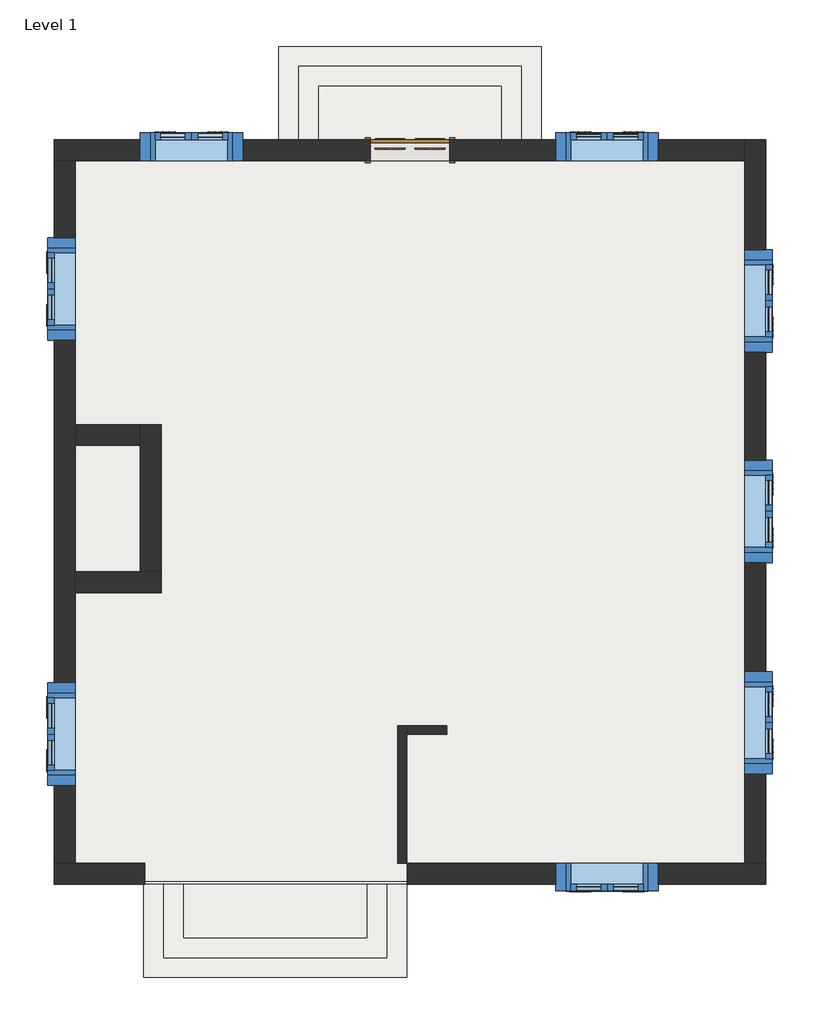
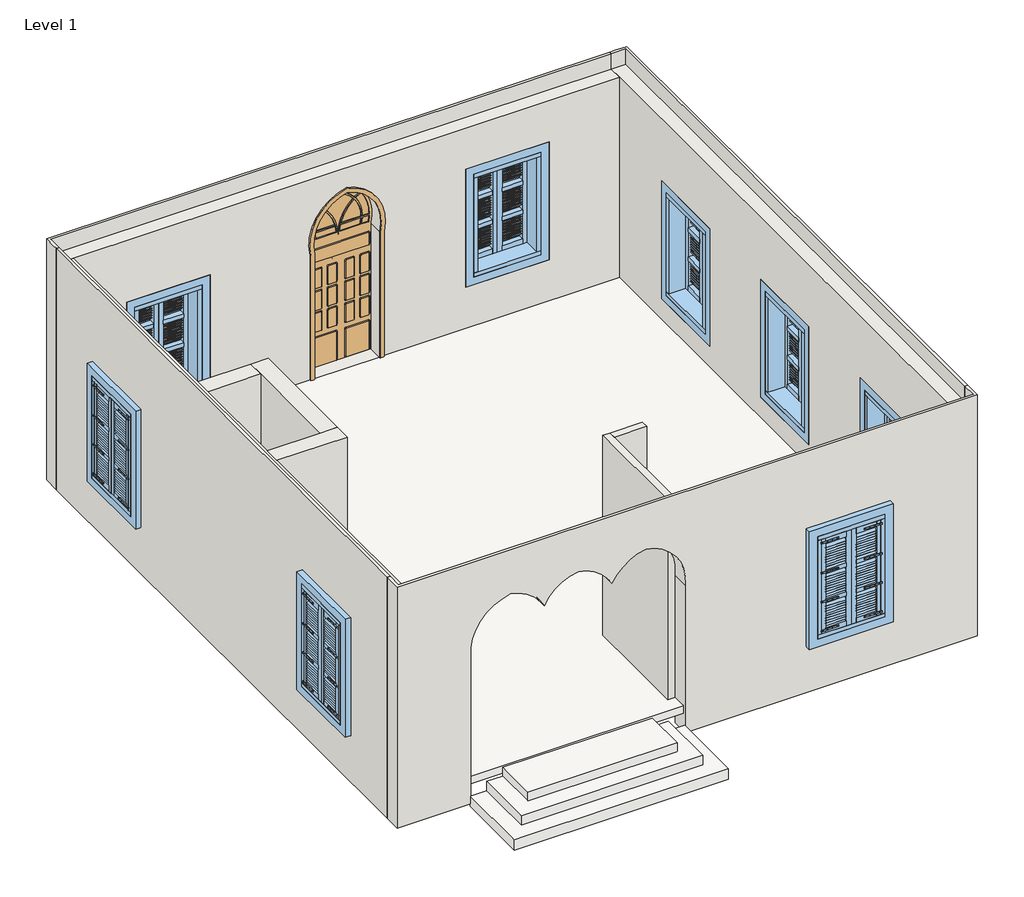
# One storey, incomplete: 9 walls, 8 windows, 7 slabs, 1 door.
"""IFC4 building model written with IfcOpenShell, lengths in millimetres."""

from ifc_helpers import new_model, si_unit, frame, origin, origin_with_axes, place, context, project, spatial, polyline, circle_curve, outline, extrude, faceted_brep, transform, mapped, element, save
from ifc_brep_helpers import plane_surface, revolved_surface, advanced_brep
from components import door_c471d53b, door_a8ad100a, door_55d09108, window_0344a641

model = new_model("IFC4")

# Units and contexts
model_context = context("Model", 3, world=origin())
ifc_project = project(units=[si_unit("LENGTHUNIT", "METRE", prefix="MILLI")], contexts=[model_context])

# Site, building, storey
site = spatial("IfcSite", under=ifc_project)
building = spatial("IfcBuilding", under=site)
storey = spatial("IfcBuildingStorey", under=building, Name="Level 1", Elevation=0.0)

# Door
placement = place(None, origin())
door_shape = door_c471d53b(model_context)
door_2_shape = door_a8ad100a(model_context)
door_3_shape = door_55d09108(model_context)
element("IfcDoor", 1, ObjectType="ETC Arabic Door : ETC Arabic Door", at=placement, inside=storey, context=model_context, shape_type="MappedRepresentation", body=[
    mapped(door_shape, transform((1836.8618283, 5518.1676657, 0.0), x_axis=(1.0, 0.0, 0.0), y_axis=(0.0, 1.0, 0.0), z_axis=(0.0, 0.0, 1.0))),
    mapped(door_2_shape, transform((1836.8618283, 5518.1676657, 0.0), x_axis=(1.0, 0.0, 0.0), y_axis=(0.0, 1.0, 0.0), z_axis=(0.0, 0.0, 1.0))),
    mapped(door_3_shape, transform((1836.8618283, 5518.1676657, 0.0), x_axis=(1.0, 0.0, 0.0), y_axis=(0.0, 1.0, 0.0), z_axis=(0.0, 0.0, 1.0))),
])

# Slabs
element("IfcSlab", 2, ObjectType="Floor stairs entrances", at=placement, inside=storey, context=model_context, shape_type="SweptSolid", body=[
    extrude(outline(polyline([(1186.8619782, -5524.3323343), (1186.8619782, -6324.3323904), (-1563.1375714, -6324.3323904), (-1563.1375714, -5524.3323343), (1186.8619782, -5524.3323343)])), frame((0.0, 0.0, -200.0), z_axis=(0.0, 0.0, 1.0), x_axis=(1.0, 0.0, 0.0)), (0.0, 0.0, 1.0), 200.0),
])
element("IfcSlab", 3, ObjectType="Floor stairs entrances", at=placement, inside=storey, context=model_context, shape_type="SweptSolid", body=[
    extrude(outline(polyline([(-1563.1375714, -6324.3323904), (1186.8619782, -6324.3323904), (1186.8619782, -5524.3323343), (1486.8611762, -5524.3323343), (1486.8613916, -6624.3323896), (-1863.138015, -6624.3323495), (-1863.1382303, -5524.334187), (-1563.1375714, -5524.334187), (-1563.1375714, -6324.3323904)])), frame((0.0, 0.0, -366.7), z_axis=(0.0, 0.0, 1.0), x_axis=(1.0, 0.0, 0.0)), (0.0, 0.0, 1.0), 200.0),
])
element("IfcSlab", 4, ObjectType="Floor stairs entrances", at=placement, inside=storey, context=model_context, shape_type="SweptSolid", body=[
    extrude(outline(polyline([(-1863.1382303, -5524.3323343), (-1863.138015, -6624.3323495), (1486.8613916, -6624.3323896), (1486.8611762, -5524.3323343), (1786.8618038, -5524.3323343), (1786.8618038, -6924.3325537), (-2163.1382449, -6924.3325537), (-2163.1382449, -5524.3323343), (-1863.1382303, -5524.3323343)])), frame((0.0, 0.0, -550.0), z_axis=(0.0, 0.0, 1.0), x_axis=(1.0, 0.0, 0.0)), (0.0, 0.0, 1.0), 200.0),
])
element("IfcSlab", 5, ObjectType="Floor stairs entrances", at=placement, inside=storey, context=model_context, shape_type="SweptSolid", body=[
    extrude(outline(polyline([(461.8616295, 5675.6676657), (461.8616295, 6475.6677217), (3211.8611792, 6475.6677217), (3211.8611792, 5675.6676657), (461.8616295, 5675.6676657)])), frame((0.0, 0.0, -200.0), z_axis=(0.0, 0.0, 1.0), x_axis=(1.0, 0.0, 0.0)), (0.0, 0.0, 1.0), 200.0),
])
element("IfcSlab", 6, ObjectType="Floor stairs entrances", at=placement, inside=storey, context=model_context, shape_type="SweptSolid", body=[
    extrude(outline(polyline([(3211.8611792, 6475.6677217), (461.8616295, 6475.6677217), (461.8616295, 5675.6676657), (161.8624316, 5675.6676657), (161.8622162, 6775.6677209), (3511.8616228, 6775.6676809), (3511.8618381, 5675.6695183), (3211.8611792, 5675.6695183), (3211.8611792, 6475.6677217)])), frame((0.0, 0.0, -366.7), z_axis=(0.0, 0.0, 1.0), x_axis=(1.0, 0.0, 0.0)), (0.0, 0.0, 1.0), 200.0),
])
element("IfcSlab", 7, ObjectType="Floor stairs entrances", at=placement, inside=storey, context=model_context, shape_type="SweptSolid", body=[
    extrude(outline(polyline([(3511.8618381, 5675.6676657), (3511.8616228, 6775.6676809), (161.8622162, 6775.6677209), (161.8624316, 5675.6676657), (-138.138196, 5675.6676657), (-138.138196, 7075.6678851), (3811.8618527, 7075.6678851), (3811.8618527, 5675.6676657), (3511.8618381, 5675.6676657)])), frame((0.0, 0.0, -550.0), z_axis=(0.0, 0.0, 1.0), x_axis=(1.0, 0.0, 0.0)), (0.0, 0.0, 1.0), 200.0),
])
element("IfcSlab", 8, ObjectType="Generic 150mm", at=placement, inside=storey, context=model_context, shape_type="Brep", body=[
    faceted_brep([(7136.8618283, -5474.3323343, -150.0), (-3463.1381717, -5474.3323343, -150.0), (-3463.1381717, -5209.3323343, -150.0), (-3463.1381717, 5360.6676657, -150.0), (-3463.1381717, 5625.6676657, -150.0), (6871.8618283, 5625.6676657, -150.0), (7136.8618283, 5625.6676657, -150.0), (7136.8618283, -5209.3323343, -150.0), (7136.8618283, -5474.3323343, 0.0), (7136.8618283, -5209.3323343, 0.0), (7136.8618283, 5625.6676657, 0.0), (6871.8618283, 5625.6676657, 0.0), (-3463.1381717, 5625.6676657, 0.0), (-3463.1381717, 5360.6676657, 0.0), (-3463.1381717, -5209.3323343, 0.0), (-3463.1381717, -5474.3323343, 0.0)], [[[0, 1, 2, 3, 4, 5, 6, 7]], [[8, 9, 10, 11, 12, 13, 14, 15]], [[1, 0, 8, 15]], [[4, 3, 2, 1, 15, 14, 13, 12]], [[6, 5, 4, 12, 11, 10]], [[0, 7, 6, 10, 9, 8]]]),
])

# Walls
element("IfcWall", 9, ObjectType="Double wall 250mm", at=placement, inside=storey, context=model_context, shape_type="AdvancedBrep", body=[
    advanced_brep(
    [(7186.8618283, -5524.3323343, 4200.0), (-3513.1381717, -5524.3323343, 4200.0), (-3513.1381717, -5524.3323343, -500.0), (-2153.1673852, -5524.3323343, -500.0), (-2153.1673852, -5524.3323343, 2380.0), (-1427.9565679, -5524.3323343, 3335.4150695), (-802.9565679, -5524.3323343, 2884.2955271), (-177.9565679, -5524.3323343, 3335.4150695), (447.0434321, -5524.3323343, 2884.2955271), (1072.0434321, -5524.3323343, 3335.4150695), (1797.0434321, -5524.3323343, 2380.0), (1797.0434321, -5524.3323343, -500.0), (7186.8618283, -5524.3323343, -500.0), (5571.8618283, -5524.3323343, 2700.0), (5571.8618283, -5524.3323343, 400.0), (4031.8618283, -5524.3323343, 400.0), (4031.8618283, -5524.3323343, 2700.0), (7186.8618283, -5209.3323343, 4200.0), (7186.8618283, -5209.3323343, -500.0), (6871.8618283, -5209.3323343, -500.0), (1797.0434321, -5209.3323343, -500.0), (1797.0434321, -5209.3323343, 2380.0), (1072.0434321, -5209.3323343, 3335.4150695), (447.0434321, -5209.3323343, 2884.2955271), (-177.9565679, -5209.3323343, 3335.4150695), (-802.9565679, -5209.3323343, 2884.2955271), (-1427.9565679, -5209.3323343, 3335.4150695), (-2153.1673852, -5209.3323343, 2380.0), (-2153.1673852, -5209.3323343, -500.0), (-3198.1381717, -5209.3323343, -500.0), (-3513.1381717, -5209.3323343, -500.0), (-3513.1381717, -5209.3323343, 4200.0), (-3463.1381717, -5209.3323343, 4200.0), (-3463.1381717, -5209.3323343, 3900.0), (-3198.1381717, -5209.3323343, 3900.0), (1656.8618038, -5209.3323343, 3900.0), (1786.8618038, -5209.3323343, 3900.0), (6871.8618283, -5209.3323343, 3900.0), (7136.8618283, -5209.3323343, 3900.0), (7136.8618283, -5209.3323343, 4200.0), (5571.8618283, -5209.3323343, 400.0), (5571.8618283, -5209.3323343, 2700.0), (4031.8618283, -5209.3323343, 2700.0), (4031.8618283, -5209.3323343, 400.0), (7186.8618283, -5304.3323343, 4200.0), (7136.8618283, -5474.3323343, 4200.0), (-3463.1381717, -5474.3323343, 4200.0), (-3513.1381717, -5304.3323343, 4200.0), (-3463.1381717, -5474.3323343, 3900.0), (7136.8618283, -5474.3323343, 3900.0)],
    [
        (0, 1),
        (1, 2),
        (2, 3),
        (3, 4),
        (4, 5, circle_curve(frame((-1283.8635384, -5524.3323343, 2473.0964895), z_axis=(0.0, 1.0, 0.0), x_axis=(-1.0, 0.0, 0.0)), 874.2746333)),
        (5, 6, circle_curve(frame((-1554.2065679, -5524.3323343, 2501.9925828), z_axis=(0.0, 1.0, 0.0), x_axis=(-1.0, 0.0, 0.0)), 842.9306637)),
        (6, 7, circle_curve(frame((-51.7065679, -5524.3323343, 2501.9925828), z_axis=(0.0, 1.0, 0.0), x_axis=(-1.0, 0.0, 0.0)), 842.9306637)),
        (7, 8, circle_curve(frame((-304.2065679, -5524.3323343, 2501.9925828), z_axis=(0.0, 1.0, 0.0), x_axis=(-1.0, 0.0, 0.0)), 842.9306637)),
        (8, 9, circle_curve(frame((1198.2934321, -5524.3323343, 2501.9925828), z_axis=(0.0, 1.0, 0.0), x_axis=(-1.0, 0.0, 0.0)), 842.9306637)),
        (9, 10, circle_curve(frame((928.1732549, -5524.3323343, 2473.4573903), z_axis=(0.0, 1.0, 0.0), x_axis=(-1.0, 0.0, 0.0)), 873.8819535)),
        (10, 11),
        (11, 12),
        (12, 0),
        (13, 14),
        (14, 15),
        (15, 16),
        (16, 13),
        (17, 18),
        (18, 19),
        (19, 20),
        (20, 21),
        (21, 22, circle_curve(frame((928.1732549, -5209.3323343, 2473.4573903), z_axis=(0.0, -1.0, 0.0), x_axis=(-1.0, 0.0, 0.0)), 873.8819535)),
        (22, 23, circle_curve(frame((1198.2934321, -5209.3323343, 2501.9925828), z_axis=(0.0, -1.0, 0.0), x_axis=(-1.0, 0.0, 0.0)), 842.9306637)),
        (23, 24, circle_curve(frame((-304.2065679, -5209.3323343, 2501.9925828), z_axis=(0.0, -1.0, 0.0), x_axis=(-1.0, 0.0, 0.0)), 842.9306637)),
        (24, 25, circle_curve(frame((-51.7065679, -5209.3323343, 2501.9925828), z_axis=(0.0, -1.0, 0.0), x_axis=(-1.0, 0.0, 0.0)), 842.9306637)),
        (25, 26, circle_curve(frame((-1554.2065679, -5209.3323343, 2501.9925828), z_axis=(0.0, -1.0, 0.0), x_axis=(-1.0, 0.0, 0.0)), 842.9306637)),
        (26, 27, circle_curve(frame((-1283.8635384, -5209.3323343, 2473.0964895), z_axis=(0.0, -1.0, 0.0), x_axis=(-1.0, 0.0, 0.0)), 874.2746333)),
        (27, 28),
        (28, 29),
        (29, 30),
        (30, 31),
        (31, 32),
        (32, 33),
        (33, 34),
        (34, 35),
        (35, 36),
        (36, 37),
        (37, 38),
        (38, 39),
        (39, 17),
        (40, 41),
        (41, 42),
        (42, 43),
        (43, 40),
        (18, 12),
        (11, 20),
        (2, 30),
        (28, 3),
        (0, 44),
        (44, 17),
        (39, 45),
        (45, 46),
        (46, 32),
        (31, 47),
        (47, 1),
        (40, 14),
        (13, 41),
        (16, 42),
        (15, 43),
        (26, 5),
        (4, 27),
        (25, 6),
        (24, 7),
        (23, 8),
        (22, 9),
        (21, 10),
        (48, 49),
        (49, 38),
        (33, 48),
        (49, 45),
        (48, 46),
    ],
    [
        plane_surface(frame((-3372.6741935, -5524.3323343, -500.0), z_axis=(0.0, -1.0, 0.0), x_axis=(1.0, 0.0, 0.0))),
        plane_surface(frame((-3372.6741935, -5209.3323343, -500.0), z_axis=(0.0, 1.0, 0.0), x_axis=(-1.0, 0.0, 0.0))),
        plane_surface(frame((-3355.6381717, -5524.3323343, -500.0), z_axis=(0.0, 0.0, -1.0), x_axis=(0.0, 1.0, 0.0))),
        plane_surface(frame((7029.3618283, -5524.3323343, 4200.0), z_axis=(0.0, 0.0, 1.0), x_axis=(0.0, 1.0, 0.0))),
        plane_surface(frame((7186.8618283, -5474.3323343, -500.0), z_axis=(1.0, 0.0, 0.0), x_axis=(0.0, 1.0, 0.0))),
        plane_surface(frame((-3513.1381717, 5625.6676657, -500.0), z_axis=(-1.0, 0.0, 0.0), x_axis=(0.0, -1.0, 0.0))),
        plane_surface(frame((5571.8618283, -5209.3323343, 400.0), z_axis=(-1.0, 0.0, 0.0), x_axis=(0.0, -1.0, 0.0))),
        plane_surface(frame((5571.8618283, -5209.3323343, 2700.0), z_axis=(0.0, 0.0, -1.0), x_axis=(0.0, -1.0, 0.0))),
        plane_surface(frame((4031.8618283, -5209.3323343, 2700.0), z_axis=(1.0, 0.0, 0.0), x_axis=(0.0, -1.0, 0.0))),
        plane_surface(frame((4031.8618283, -5209.3323343, 400.0), z_axis=(0.0, 0.0, 1.0), x_axis=(0.0, -1.0, 0.0))),
        revolved_surface(polyline([(-2158.1381717, -5209.3323343, 2473.0964895), (-2158.1381717, -5524.3323343, 2473.0964895)]), (-1283.8635384, -5524.3323343, 2473.0964895), (0.0, 1.0, 0.0)),
        revolved_surface(polyline([(-2397.1372315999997, -5209.3323343, 2501.9925828), (-2397.1372315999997, -5524.3323343, 2501.9925828)]), (-1554.2065679, -5524.3323343, 2501.9925828), (0.0, 1.0, 0.0)),
        revolved_surface(polyline([(-894.6372316, -5209.3323343, 2501.9925828), (-894.6372316, -5524.3323343, 2501.9925828)]), (-51.7065679, -5524.3323343, 2501.9925828), (0.0, 1.0, 0.0)),
        revolved_surface(polyline([(-1147.1372316, -5209.3323343, 2501.9925828), (-1147.1372316, -5524.3323343, 2501.9925828)]), (-304.2065679, -5524.3323343, 2501.9925828), (0.0, 1.0, 0.0)),
        revolved_surface(polyline([(355.36276840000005, -5209.3323343, 2501.9925828), (355.36276840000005, -5524.3323343, 2501.9925828)]), (1198.2934321, -5524.3323343, 2501.9925828), (0.0, 1.0, 0.0)),
        revolved_surface(polyline([(54.29130139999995, -5209.3323343, 2473.4573903), (54.29130139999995, -5524.3323343, 2473.4573903)]), (928.1732549, -5524.3323343, 2473.4573903), (0.0, 1.0, 0.0)),
        plane_surface(frame((1797.0434321, -5209.3323343, 2380.0), z_axis=(-1.0, 0.0, 0.0), x_axis=(0.0, -1.0, 0.0))),
        plane_surface(frame((-2153.1673852, -5209.3323343, -500.0), z_axis=(1.0, 0.0, 0.0), x_axis=(0.0, -1.0, 0.0))),
        plane_surface(frame((7136.8618283, 5625.6676657, 3900.0), z_axis=(0.0, 0.0, 1.0), x_axis=(1.0, 0.0, 0.0))),
        plane_surface(frame((7136.8618283, -5474.3323343, 3900.0), z_axis=(-1.0, 0.0, 0.0), x_axis=(0.0, 1.0, 0.0))),
        plane_surface(frame((-3463.1381717, -5474.3323343, 3900.0), z_axis=(0.0, 1.0, 0.0), x_axis=(1.0, 0.0, 0.0))),
        plane_surface(frame((-3463.1381717, 5625.6676657, 3900.0), z_axis=(1.0, 0.0, 0.0), x_axis=(0.0, -1.0, 0.0))),
    ],
    [
        (0, [[1, 2, 3, 4, 5, 6, 7, 8, 9, 10, 11, 12, 13], [14, 15, 16, 17]]),
        (1, [[18, 19, 20, 21, 22, 23, 24, 25, 26, 27, 28, 29, 30, 31, 32, 33, 34, 35, 36, 37, 38, 39, 40], [41, 42, 43, 44]]),
        (2, [[45, -12, 46, -20, -19]]),
        (2, [[47, -30, -29, 48, -3]]),
        (3, [[-1, 49, 50, -40, 51, 52, 53, -32, 54, 55]]),
        (4, [[-13, -45, -18, -50, -49]]),
        (5, [[-2, -55, -54, -31, -47]]),
        (6, [[-41, 56, -14, 57]]),
        (7, [[-42, -57, -17, 58]]),
        (8, [[-43, -58, -16, 59]]),
        (9, [[-44, -59, -15, -56]]),
        (10, [[60, -5, 61, -27]]),
        (11, [[-60, -26, 62, -6]]),
        (12, [[-62, -25, 63, -7]]),
        (13, [[-63, -24, 64, -8]]),
        (14, [[-64, -23, 65, -9]]),
        (15, [[-65, -22, 66, -10]]),
        (16, [[-66, -21, -46, -11]]),
        (17, [[-61, -4, -48, -28]]),
        (18, [[67, 68, -38, -37, -36, -35, -34, 69]]),
        (19, [[70, -51, -39, -68]]),
        (20, [[-67, 71, -52, -70]]),
        (21, [[-71, -69, -33, -53]]),
    ],
),
])
element("IfcWall", 10, ObjectType="Double wall 250mm", at=placement, inside=storey, context=model_context, shape_type="Brep", body=[
    faceted_brep([(7186.8618283, -5209.3323343, -500.0), (7186.8618283, 5675.6676657, -500.0), (7186.8618283, 5675.6676657, 4200.0), (7186.8618283, -5209.3323343, 4200.0), (7186.8618283, -2324.3319881, 2700.0), (7186.8618283, -2324.3319881, 400.0), (7186.8618283, -3864.3319881, 400.0), (7186.8618283, -3864.3319881, 2700.0), (7186.8618283, 855.6680119, 2700.0), (7186.8618283, 855.6680119, 400.0), (7186.8618283, -684.3319881, 400.0), (7186.8618283, -684.3319881, 2700.0), (7186.8618283, 4020.6676657, 2700.0), (7186.8618283, 4020.6676657, 400.0), (7186.8618283, 2480.6676657, 400.0), (7186.8618283, 2480.6676657, 2700.0), (6871.8618283, 5675.6676657, -500.0), (6871.8618283, 5360.6676657, -500.0), (6871.8618283, -5209.3323343, -500.0), (6871.8618283, -5209.3323343, -150.0), (6871.8618283, 5625.6676657, -150.0), (6871.8618283, 5625.6676657, 0.0), (6871.8618283, -5209.3323343, 0.0), (6871.8618283, -5209.3323343, 3900.0), (6871.8618283, 5360.6676657, 3900.0), (6871.8618283, 5625.6676657, 3900.0), (6871.8618283, 5625.6676657, 4200.0), (6871.8618283, 5675.6676657, 4200.0), (6871.8618283, -2324.3319881, 400.0), (6871.8618283, -2324.3319881, 2700.0), (6871.8618283, -3864.3319881, 2700.0), (6871.8618283, -3864.3319881, 400.0), (6871.8618283, 855.6680119, 400.0), (6871.8618283, 855.6680119, 2700.0), (6871.8618283, -684.3319881, 2700.0), (6871.8618283, -684.3319881, 400.0), (6871.8618283, 4020.6676657, 400.0), (6871.8618283, 4020.6676657, 2700.0), (6871.8618283, 2480.6676657, 2700.0), (6871.8618283, 2480.6676657, 400.0), (6966.8618283, 5675.6676657, 4200.0), (7136.8618283, 5625.6676657, 4200.0), (7136.8618283, -5209.3323343, 4200.0), (7136.8618283, -5209.3323343, 3900.0), (7136.8618283, -5209.3323343, 0.0), (7136.8618283, -5209.3323343, -150.0), (7136.8618283, 5625.6676657, 3900.0), (7136.8618283, 5625.6676657, -150.0), (7136.8618283, 5625.6676657, 0.0)], [[[0, 1, 2, 3], [4, 5, 6, 7], [8, 9, 10, 11], [12, 13, 14, 15]], [[16, 17, 18, 19, 20, 21, 22, 23, 24, 25, 26, 27], [28, 29, 30, 31], [32, 33, 34, 35], [36, 37, 38, 39]], [[1, 0, 18, 17, 16]], [[3, 2, 40, 27, 26, 41, 42]], [[0, 3, 42, 43, 23, 22, 44, 45, 19, 18]], [[2, 1, 16, 27, 40]], [[29, 28, 5, 4]], [[30, 29, 4, 7]], [[31, 30, 7, 6]], [[28, 31, 6, 5]], [[33, 32, 9, 8]], [[34, 33, 8, 11]], [[35, 34, 11, 10]], [[32, 35, 10, 9]], [[37, 36, 13, 12]], [[38, 37, 12, 15]], [[39, 38, 15, 14]], [[36, 39, 14, 13]], [[43, 46, 25, 24, 23]], [[46, 41, 26, 25]], [[41, 46, 43, 42]], [[45, 47, 20, 19]], [[21, 48, 44, 22]], [[47, 48, 21, 20]], [[48, 47, 45, 44]]]),
])
element("IfcWall", 11, ObjectType="Double wall 250mm", at=placement, inside=storey, context=model_context, shape_type="AdvancedBrep", body=[
    advanced_brep(
    [(6871.8618283, 5675.6676657, -500.0), (-3513.1381717, 5675.6676657, -500.0), (-3513.1381717, 5675.6676657, 4200.0), (6871.8618283, 5675.6676657, 4200.0), (-2218.1381717, 5675.6676657, 2700.0), (-2218.1381717, 5675.6676657, 400.0), (-678.1381717, 5675.6676657, 400.0), (-678.1381717, 5675.6676657, 2700.0), (4031.8618283, 5675.6676657, 3100.0), (4031.8618283, 5675.6676657, 800.0), (5571.8618283, 5675.6676657, 800.0), (5571.8618283, 5675.6676657, 3100.0), (2436.8618283, 5675.6676657, 0.0), (2436.8618283, 5675.6676657, 2442.5470794), (1836.8618283, 5675.6676657, 3442.5470794), (1236.8618283, 5675.6676657, 2442.5470794), (1236.8618283, 5675.6676657, 0.0), (-3513.1381717, 5360.6676657, -500.0), (-3198.1381717, 5360.6676657, -500.0), (6871.8618283, 5360.6676657, -500.0), (6871.8618283, 5360.6676657, 3900.0), (-3198.1381717, 5360.6676657, 3900.0), (-3463.1381717, 5360.6676657, 3900.0), (-3463.1381717, 5360.6676657, 4200.0), (-3513.1381717, 5360.6676657, 4200.0), (-2218.1381717, 5360.6676657, 400.0), (-2218.1381717, 5360.6676657, 2700.0), (-678.1381717, 5360.6676657, 2700.0), (-678.1381717, 5360.6676657, 400.0), (4031.8618283, 5360.6676657, 800.0), (4031.8618283, 5360.6676657, 3100.0), (5571.8618283, 5360.6676657, 3100.0), (5571.8618283, 5360.6676657, 800.0), (2436.8618283, 5360.6676657, 2442.5470794), (2436.8618283, 5360.6676657, 0.0), (1236.8618283, 5360.6676657, 0.0), (1236.8618283, 5360.6676657, 2442.5470794), (1836.8618283, 5360.6676657, 3442.5470794), (-3513.1381717, 5455.6676657, 4200.0), (-3463.1381717, 5625.6676657, 4200.0), (6871.8618283, 5625.6676657, 4200.0), (6871.8618283, 5625.6676657, 3900.0), (-3463.1381717, 5625.6676657, 3900.0)],
    [
        (0, 1),
        (1, 2),
        (2, 3),
        (3, 0),
        (4, 5),
        (5, 6),
        (6, 7),
        (7, 4),
        (8, 9),
        (9, 10),
        (10, 11),
        (11, 8),
        (12, 13),
        (13, 14, circle_curve(frame((1642.481646, 5675.6676657, 2645.91897), z_axis=(0.0, -1.0, 0.0), x_axis=(1.0, 0.0, 0.0)), 820.0)),
        (14, 15, circle_curve(frame((2031.2420107, 5675.6676657, 2645.91897), z_axis=(0.0, -1.0, 0.0), x_axis=(1.0, 0.0, 0.0)), 820.0)),
        (15, 16),
        (16, 12),
        (17, 18),
        (18, 19),
        (19, 20),
        (20, 21),
        (21, 22),
        (22, 23),
        (23, 24),
        (24, 17),
        (25, 26),
        (26, 27),
        (27, 28),
        (28, 25),
        (29, 30),
        (30, 31),
        (31, 32),
        (32, 29),
        (33, 34),
        (34, 35),
        (35, 36),
        (36, 37, circle_curve(frame((2031.2420107, 5360.6676657, 2645.91897), z_axis=(0.0, 1.0, 0.0), x_axis=(1.0, 0.0, 0.0)), 820.0)),
        (37, 33, circle_curve(frame((1642.481646, 5360.6676657, 2645.91897), z_axis=(0.0, 1.0, 0.0), x_axis=(1.0, 0.0, 0.0)), 820.0)),
        (0, 19),
        (17, 1),
        (2, 38),
        (38, 24),
        (23, 39),
        (39, 40),
        (40, 3),
        (40, 41),
        (41, 20),
        (25, 5),
        (4, 26),
        (7, 27),
        (6, 28),
        (42, 22),
        (41, 42),
        (39, 42),
        (29, 9),
        (8, 30),
        (11, 31),
        (10, 32),
        (12, 34),
        (33, 13),
        (37, 14),
        (36, 15),
        (35, 16),
    ],
    [
        plane_surface(frame((7136.8618283, 5675.6676657, -500.0), z_axis=(0.0, 1.0, 0.0), x_axis=(-1.0, 0.0, 0.0))),
        plane_surface(frame((7136.8618283, 5360.6676657, -500.0), z_axis=(0.0, -1.0, 0.0), x_axis=(1.0, 0.0, 0.0))),
        plane_surface(frame((7029.3618283, 5675.6676657, -500.0), z_axis=(0.0, 0.0, -1.0), x_axis=(0.0, -1.0, 0.0))),
        plane_surface(frame((-3355.6381717, 5675.6676657, 4200.0), z_axis=(0.0, 0.0, 1.0), x_axis=(0.0, -1.0, 0.0))),
        plane_surface(frame((6871.8618283, -5474.3323343, -500.0), z_axis=(1.0, 0.0, 0.0), x_axis=(0.0, -1.0, 0.0))),
        plane_surface(frame((-3513.1381717, 5625.6676657, -500.0), z_axis=(-1.0, 0.0, 0.0), x_axis=(0.0, -1.0, 0.0))),
        plane_surface(frame((-2218.1381717, 5360.6676657, 400.0), z_axis=(1.0, 0.0, 0.0), x_axis=(0.0, 1.0, 0.0))),
        plane_surface(frame((-2218.1381717, 5360.6676657, 2700.0), z_axis=(0.0, 0.0, -1.0), x_axis=(0.0, 1.0, 0.0))),
        plane_surface(frame((-678.1381717, 5360.6676657, 2700.0), z_axis=(-1.0, 0.0, 0.0), x_axis=(0.0, 1.0, 0.0))),
        plane_surface(frame((-678.1381717, 5360.6676657, 400.0), z_axis=(0.0, 0.0, 1.0), x_axis=(0.0, 1.0, 0.0))),
        plane_surface(frame((7136.8618283, 5625.6676657, 3900.0), z_axis=(0.0, 0.0, 1.0), x_axis=(1.0, 0.0, 0.0))),
        plane_surface(frame((7136.8618283, 5625.6676657, 3900.0), z_axis=(0.0, -1.0, 0.0), x_axis=(-1.0, 0.0, 0.0))),
        plane_surface(frame((-3463.1381717, 5625.6676657, 3900.0), z_axis=(1.0, 0.0, 0.0), x_axis=(0.0, -1.0, 0.0))),
        plane_surface(frame((4031.8618283, 5360.6676657, 800.0), z_axis=(1.0, 0.0, 0.0), x_axis=(0.0, 1.0, 0.0))),
        plane_surface(frame((4031.8618283, 5360.6676657, 3100.0), z_axis=(0.0, 0.0, -1.0), x_axis=(0.0, 1.0, 0.0))),
        plane_surface(frame((5571.8618283, 5360.6676657, 3100.0), z_axis=(-1.0, 0.0, 0.0), x_axis=(0.0, 1.0, 0.0))),
        plane_surface(frame((5571.8618283, 5360.6676657, 800.0), z_axis=(0.0, 0.0, 1.0), x_axis=(0.0, 1.0, 0.0))),
        plane_surface(frame((2436.8618283, 5675.6676657, 0.0), z_axis=(-1.0, 0.0, 0.0), x_axis=(0.0, -1.0, 0.0))),
        revolved_surface(polyline([(2462.481646, 5360.6676657, 2645.91897), (2462.481646, 5675.6676657, 2645.91897)]), (1642.481646, 5360.6676657, 2645.91897), (0.0, -1.0, 0.0)),
        revolved_surface(polyline([(2851.2420107, 5360.6676657, 2645.91897), (2851.2420107, 5675.6676657, 2645.91897)]), (2031.2420107, 5360.6676657, 2645.91897), (0.0, -1.0, 0.0)),
        plane_surface(frame((1236.8618283, 5675.6676657, 2442.5470794), z_axis=(1.0, 0.0, 0.0), x_axis=(0.0, -1.0, 0.0))),
        plane_surface(frame((1236.8618283, 5675.6676657, 0.0), z_axis=(0.0, 0.0, 1.0), x_axis=(0.0, -1.0, 0.0))),
    ],
    [
        (0, [[1, 2, 3, 4], [5, 6, 7, 8], [9, 10, 11, 12], [13, 14, 15, 16, 17]]),
        (1, [[18, 19, 20, 21, 22, 23, 24, 25], [26, 27, 28, 29], [30, 31, 32, 33], [34, 35, 36, 37, 38]]),
        (2, [[-1, 39, -19, -18, 40]]),
        (3, [[-3, 41, 42, -24, 43, 44, 45]]),
        (4, [[-4, -45, 46, 47, -20, -39]]),
        (5, [[-2, -40, -25, -42, -41]]),
        (6, [[-26, 48, -5, 49]]),
        (7, [[-27, -49, -8, 50]]),
        (8, [[-28, -50, -7, 51]]),
        (9, [[-29, -51, -6, -48]]),
        (10, [[52, -22, -21, -47, 53]]),
        (11, [[54, -53, -46, -44]]),
        (12, [[-54, -43, -23, -52]]),
        (13, [[-30, 55, -9, 56]]),
        (14, [[-31, -56, -12, 57]]),
        (15, [[-32, -57, -11, 58]]),
        (16, [[-33, -58, -10, -55]]),
        (17, [[-13, 59, -34, 60]]),
        (18, [[-14, -60, -38, 61]]),
        (19, [[-15, -61, -37, 62]]),
        (20, [[-16, -62, -36, 63]]),
        (21, [[-17, -63, -35, -59]]),
    ],
),
])
element("IfcWall", 12, ObjectType="Double wall 250mm", at=placement, inside=storey, context=model_context, shape_type="Brep", body=[
    faceted_brep([(-3513.1381717, 5360.6676657, -500.0), (-3513.1381717, -5209.3323343, -500.0), (-3513.1381717, -5209.3323343, 4200.0), (-3513.1381717, 5360.6676657, 4200.0), (-3513.1381717, 2660.6676657, 2700.0), (-3513.1381717, 2660.6676657, 400.0), (-3513.1381717, 4200.6676657, 400.0), (-3513.1381717, 4200.6676657, 2700.0), (-3513.1381717, -4035.2541777, 2700.0), (-3513.1381717, -4035.2541777, 400.0), (-3513.1381717, -2495.2541777, 400.0), (-3513.1381717, -2495.2541777, 2700.0), (-3198.1381717, -5209.3323343, -500.0), (-3198.1381717, 5360.6676657, -500.0), (-3198.1381717, 5360.6676657, -150.0), (-3198.1381717, -5209.3323343, -150.0), (-3198.1381717, 5360.6676657, 3900.0), (-3198.1381717, 1390.6676674, 3900.0), (-3198.1381717, 1075.6676674, 3900.0), (-3198.1381717, -824.3323326, 3900.0), (-3198.1381717, -1139.3323326, 3900.0), (-3198.1381717, -5209.3323343, 3900.0), (-3198.1381717, -5209.3323343, 0.0), (-3198.1381717, -1139.3323326, 0.0), (-3198.1381717, -824.3323326, 0.0), (-3198.1381717, 1075.6676674, 0.0), (-3198.1381717, 1390.6676674, 0.0), (-3198.1381717, 5360.6676657, 0.0), (-3198.1381717, 2660.6676657, 400.0), (-3198.1381717, 2660.6676657, 2700.0), (-3198.1381717, 4200.6676657, 2700.0), (-3198.1381717, 4200.6676657, 400.0), (-3198.1381717, -4035.2541777, 400.0), (-3198.1381717, -4035.2541777, 2700.0), (-3198.1381717, -2495.2541777, 2700.0), (-3198.1381717, -2495.2541777, 400.0), (-3463.1381717, -5209.3323343, 4200.0), (-3463.1381717, 5360.6676657, 4200.0), (-3463.1381717, 5360.6676657, 3900.0), (-3463.1381717, 5360.6676657, 0.0), (-3463.1381717, 5360.6676657, -150.0), (-3463.1381717, -5209.3323343, -150.0), (-3463.1381717, -5209.3323343, 0.0), (-3463.1381717, -5209.3323343, 3900.0)], [[[0, 1, 2, 3], [4, 5, 6, 7], [8, 9, 10, 11]], [[12, 13, 14, 15]], [[16, 17, 18, 19, 20, 21, 22, 23, 24, 25, 26, 27], [28, 29, 30, 31], [32, 33, 34, 35]], [[1, 0, 13, 12]], [[3, 2, 36, 37]], [[0, 3, 37, 38, 16, 27, 39, 40, 14, 13]], [[2, 1, 12, 15, 41, 42, 22, 21, 43, 36]], [[29, 28, 5, 4]], [[30, 29, 4, 7]], [[31, 30, 7, 6]], [[28, 31, 6, 5]], [[33, 32, 9, 8]], [[34, 33, 8, 11]], [[35, 34, 11, 10]], [[32, 35, 10, 9]], [[38, 43, 21, 20, 19, 18, 17, 16]], [[43, 38, 37, 36]], [[40, 41, 15, 14]], [[42, 39, 27, 26, 25, 24, 23, 22]], [[41, 40, 39, 42]]]),
])
element("IfcWall", 13, ObjectType="Double wall 250mm", at=placement, inside=storey, context=model_context, shape_type="Brep", body=[
    faceted_brep([(-3198.1381717, -1139.3323326, 0.0), (-1903.1381717, -1139.3323326, 0.0), (-1903.1381717, -1139.3323326, 3900.0), (-3198.1381717, -1139.3323326, 3900.0), (-3198.1381717, -824.3323326, 0.0), (-3198.1381717, -824.3323326, 3900.0), (-2218.1381717, -824.3323326, 3900.0), (-1903.1381717, -824.3323326, 3900.0), (-1903.1381717, -824.3323326, 0.0), (-2218.1381717, -824.3323326, 0.0)], [[[0, 1, 2, 3]], [[4, 5, 6, 7, 8, 9]], [[1, 0, 4, 9, 8]], [[0, 3, 5, 4]], [[2, 1, 8, 7]], [[3, 2, 7, 6, 5]]]),
])
element("IfcWall", 14, ObjectType="Double wall 250mm", at=placement, inside=storey, context=model_context, shape_type="Brep", body=[
    faceted_brep([(-1903.1381717, -824.3323326, 0.0), (-1903.1381717, 1390.6676674, 0.0), (-1903.1381717, 1390.6676674, 3900.0), (-1903.1381717, -824.3323326, 3900.0), (-2218.1381717, -824.3323326, 0.0), (-2218.1381717, -824.3323326, 3900.0), (-2218.1381717, 1075.6676674, 3900.0), (-2218.1381717, 1390.6676674, 3900.0), (-2218.1381717, 1390.6676674, 0.0), (-2218.1381717, 1075.6676674, 0.0)], [[[0, 1, 2, 3]], [[4, 5, 6, 7, 8, 9]], [[1, 0, 4, 9, 8]], [[0, 3, 5, 4]], [[2, 1, 8, 7]], [[3, 2, 7, 6, 5]]]),
])
element("IfcWall", 15, ObjectType="Double wall 250mm", at=placement, inside=storey, context=model_context, shape_type="SweptSolid", body=[
    extrude(outline(polyline([(-3198.1381717, 1390.6676674), (-2218.1381717, 1390.6676674), (-2218.1381717, 1075.6676674), (-3198.1381717, 1075.6676674), (-3198.1381717, 1390.6676674)])), origin_with_axes(), (0.0, 0.0, 1.0), 3900.0),
])
element("IfcWall", 16, ObjectType="Wall 100 mm", at=placement, inside=storey, context=model_context, shape_type="Brep", body=[
    faceted_brep([(1786.8618038, -5209.3323343, 0.0), (1786.8618038, -3269.3323343, 0.0), (1786.8618038, -3139.3323343, 0.0), (1786.8618038, -3139.3323343, 3900.0), (1786.8618038, -3269.3323343, 3900.0), (1786.8618038, -5209.3323343, 3900.0), (1656.8618038, -5209.3323343, 0.0), (1656.8618038, -5209.3323343, 3900.0), (1656.8618038, -3139.3323343, 3900.0), (1656.8618038, -3139.3323343, 0.0)], [[[0, 1, 2, 3, 4, 5]], [[6, 7, 8, 9]], [[2, 1, 0, 6, 9]], [[0, 5, 7, 6]], [[3, 2, 9, 8]], [[5, 4, 3, 8, 7]]]),
])
element("IfcWall", 17, ObjectType="Wall 100 mm", at=placement, inside=storey, context=model_context, shape_type="SweptSolid", body=[
    extrude(outline(polyline([(2386.8618038, -3269.3323343), (1786.8618038, -3269.3323343), (1786.8618038, -3139.3323343), (2386.8618038, -3139.3323343), (2386.8618038, -3269.3323343)])), origin_with_axes(), (0.0, 0.0, 1.0), 3900.0),
])

# Windows
window_shape = window_0344a641(model_context)
element("IfcWindow", 18, ObjectType="ziad louvers : ziad louvers", at=placement, inside=storey, context=model_context, shape_type="MappedRepresentation", body=[
    mapped(window_shape, transform((4801.8618283, -5366.8323343, -400.0), x_axis=(-1.0, 0.0, 0.0), y_axis=(0.0, -1.0, 0.0), z_axis=(0.0, 0.0, 1.0))),
])
element("IfcWindow", 19, ObjectType="ziad louvers : ziad louvers", at=placement, inside=storey, context=model_context, shape_type="MappedRepresentation", body=[
    mapped(window_shape, transform((7029.3618283, -3094.3319881, -400.0), x_axis=(0.0, -1.0, 0.0), y_axis=(1.0, 0.0, 0.0), z_axis=(0.0, 0.0, 1.0))),
])
element("IfcWindow", 20, ObjectType="ziad louvers : ziad louvers", at=placement, inside=storey, context=model_context, shape_type="MappedRepresentation", body=[
    mapped(window_shape, transform((7029.3618283, 85.6680119, -400.0), x_axis=(0.0, -1.0, 0.0), y_axis=(1.0, 0.0, 0.0), z_axis=(0.0, 0.0, 1.0))),
])
element("IfcWindow", 21, ObjectType="ziad louvers : ziad louvers", at=placement, inside=storey, context=model_context, shape_type="MappedRepresentation", body=[
    mapped(window_shape, transform((7029.3618283, 3250.6676657, -400.0), x_axis=(0.0, -1.0, 0.0), y_axis=(1.0, 0.0, 0.0), z_axis=(0.0, 0.0, 1.0))),
])
element("IfcWindow", 22, ObjectType="ziad louvers : ziad louvers", at=placement, inside=storey, context=model_context, shape_type="MappedRepresentation", body=[
    mapped(window_shape, transform((-1448.1381717, 5518.1676657, -400.0), x_axis=(1.0, 0.0, 0.0), y_axis=(0.0, 1.0, 0.0), z_axis=(0.0, 0.0, 1.0))),
])
element("IfcWindow", 23, ObjectType="ziad louvers : ziad louvers", at=placement, inside=storey, context=model_context, shape_type="MappedRepresentation", body=[
    mapped(window_shape, transform((-3355.6381717, 3430.6676657, -400.0), x_axis=(0.0, 1.0, 0.0), y_axis=(-1.0, 0.0, 0.0), z_axis=(0.0, 0.0, 1.0))),
])
element("IfcWindow", 24, ObjectType="ziad louvers : ziad louvers", at=placement, inside=storey, context=model_context, shape_type="MappedRepresentation", body=[
    mapped(window_shape, transform((-3355.6381717, -3265.2541777, -400.0), x_axis=(0.0, 1.0, 0.0), y_axis=(-1.0, 0.0, 0.0), z_axis=(0.0, 0.0, 1.0))),
])
element("IfcWindow", 25, ObjectType="ziad louvers : ziad louvers", at=placement, inside=storey, context=model_context, shape_type="MappedRepresentation", body=[
    mapped(window_shape, transform((4801.8618283, 5518.1676657, 0.0), x_axis=(1.0, 0.0, 0.0), y_axis=(0.0, 1.0, 0.0), z_axis=(0.0, 0.0, 1.0))),
])

save(model, "model.ifc")
